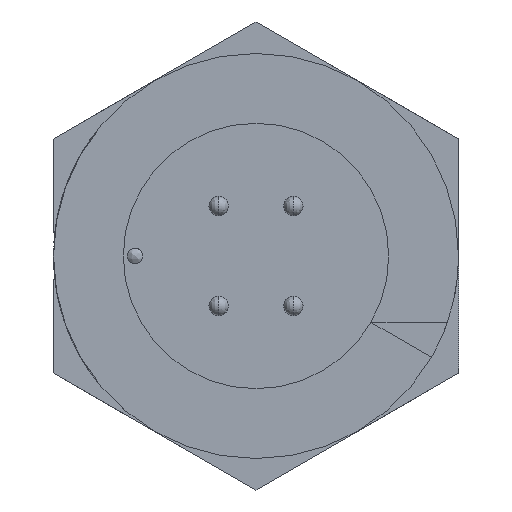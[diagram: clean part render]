
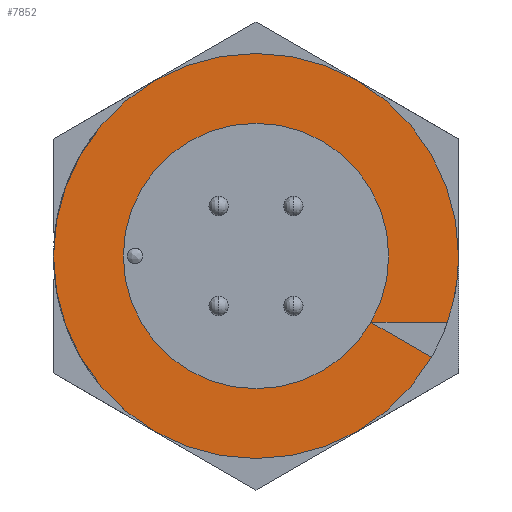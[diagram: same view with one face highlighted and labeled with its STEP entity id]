
A CAD part, left-side view. The second image highlights one B-rep face of the part: STEP entity #7852.
In plain terms, the highlighted planar face has unit normal (-1, 0, 0).
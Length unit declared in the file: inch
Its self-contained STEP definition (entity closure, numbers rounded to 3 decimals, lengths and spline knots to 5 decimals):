
#594 = ORIENTED_EDGE ( 'NONE', *, *, #14451, .F. ) ;
#628 = CARTESIAN_POINT ( 'NONE',  ( -0.078, 0., 0. ) ) ;
#1115 = CIRCLE ( 'NONE', #11576, 0.406 ) ;
#1986 = VERTEX_POINT ( 'NONE', #28195 ) ;
#2983 = DIRECTION ( 'NONE',  ( 0., 1., 0. ) ) ;
#3773 = VERTEX_POINT ( 'NONE', #26251 ) ;
#3820 = ORIENTED_EDGE ( 'NONE', *, *, #17448, .F. ) ;
#3861 = CARTESIAN_POINT ( 'NONE',  ( -0.078, -0.35161, -0.203 ) ) ;
#4427 = VERTEX_POINT ( 'NONE', #21427 ) ;
#4484 = FACE_OUTER_BOUND ( 'NONE', #6595, .T. ) ;
#4800 = ORIENTED_EDGE ( 'NONE', *, *, #19978, .F. ) ;
#5585 = VERTEX_POINT ( 'NONE', #16894 ) ;
#5749 = DIRECTION ( 'NONE',  ( -1., 0., 0. ) ) ;
#6595 = EDGE_LOOP ( 'NONE', ( #25514, #3820, #26063, #16570, #23657, #4800, #594, #23752 ) ) ;
#7569 = CARTESIAN_POINT ( 'NONE',  ( -0.078, 0., 0. ) ) ;
#7731 = CIRCLE ( 'NONE', #26424, 0.266 ) ;
#7852 = ADVANCED_FACE ( 'NONE', ( #4484 ), #24603, .T. ) ;
#8115 = B_SPLINE_CURVE_WITH_KNOTS ( 'NONE', 1,
 ( #19726, #19649 ),
 .UNSPECIFIED., .F., .F.,
 ( 2, 2 ),
 ( 0., 1. ),
 .UNSPECIFIED. ) ;
#8717 = CARTESIAN_POINT ( 'NONE',  ( -0.078, 0., 0. ) ) ;
#9547 = VERTEX_POINT ( 'NONE', #13979 ) ;
#9734 = CIRCLE ( 'NONE', #20484, 0.266 ) ;
#10008 = DIRECTION ( 'NONE',  ( 0., 0., 1. ) ) ;
#10315 = VERTEX_POINT ( 'NONE', #24220 ) ;
#10326 = DIRECTION ( 'NONE',  ( 0., 0., 1. ) ) ;
#10362 = DIRECTION ( 'NONE',  ( -1., 0., 0. ) ) ;
#10428 = CARTESIAN_POINT ( 'NONE',  ( -0.078, 0., 0. ) ) ;
#11121 = DIRECTION ( 'NONE',  ( 0., 1., 0. ) ) ;
#11558 = EDGE_CURVE ( 'NONE', #9547, #5585, #8115, .T. ) ;
#11576 = AXIS2_PLACEMENT_3D ( 'NONE', #27731, #13516, #30044 ) ;
#11997 = EDGE_CURVE ( 'NONE', #5585, #4427, #7731, .T. ) ;
#13516 = DIRECTION ( 'NONE',  ( 1., 0., 0. ) ) ;
#13979 = CARTESIAN_POINT ( 'NONE',  ( -0.078, -0.3836, -0.133 ) ) ;
#14396 = EDGE_CURVE ( 'NONE', #4427, #3773, #19989, .T. ) ;
#14451 = EDGE_CURVE ( 'NONE', #15178, #1986, #25555, .T. ) ;
#15178 = VERTEX_POINT ( 'NONE', #16102 ) ;
#16102 = CARTESIAN_POINT ( 'NONE',  ( -0.078, 0.406, 0. ) ) ;
#16570 = ORIENTED_EDGE ( 'NONE', *, *, #11997, .F. ) ;
#16894 = CARTESIAN_POINT ( 'NONE',  ( -0.078, -0.23036, -0.133 ) ) ;
#16901 = EDGE_CURVE ( 'NONE', #10315, #15178, #27281, .T. ) ;
#17335 = DIRECTION ( 'NONE',  ( 1., 0., 0. ) ) ;
#17448 = EDGE_CURVE ( 'NONE', #3773, #5585, #9734, .T. ) ;
#18229 = CARTESIAN_POINT ( 'NONE',  ( -0.078, -0.23036, -0.133 ) ) ;
#19054 = B_SPLINE_CURVE_WITH_KNOTS ( 'NONE', 1,
 ( #3861, #18229 ),
 .UNSPECIFIED., .F., .F.,
 ( 2, 2 ),
 ( 0., 1. ),
 .UNSPECIFIED. ) ;
#19649 = CARTESIAN_POINT ( 'NONE',  ( -0.078, -0.23036, -0.133 ) ) ;
#19726 = CARTESIAN_POINT ( 'NONE',  ( -0.078, -0.3836, -0.133 ) ) ;
#19978 = EDGE_CURVE ( 'NONE', #1986, #9547, #1115, .T. ) ;
#19989 = CIRCLE ( 'NONE', #27026, 0.266 ) ;
#20154 = CARTESIAN_POINT ( 'NONE',  ( -0.078, 0., 0. ) ) ;
#20484 = AXIS2_PLACEMENT_3D ( 'NONE', #20154, #5749, #22593 ) ;
#21164 = EDGE_CURVE ( 'NONE', #10315, #5585, #19054, .T. ) ;
#21427 = CARTESIAN_POINT ( 'NONE',  ( -0.078, 0., 0.266 ) ) ;
#22593 = DIRECTION ( 'NONE',  ( 0., 0., 1. ) ) ;
#23027 = AXIS2_PLACEMENT_3D ( 'NONE', #8717, #25482, #11121 ) ;
#23657 = ORIENTED_EDGE ( 'NONE', *, *, #11558, .F. ) ;
#23752 = ORIENTED_EDGE ( 'NONE', *, *, #16901, .F. ) ;
#24208 = DIRECTION ( 'NONE',  ( 0., 0., 1. ) ) ;
#24220 = CARTESIAN_POINT ( 'NONE',  ( -0.078, -0.35161, -0.203 ) ) ;
#24247 = DIRECTION ( 'NONE',  ( -1., 0., 0. ) ) ;
#24415 = DIRECTION ( 'NONE',  ( -1., 0., 0. ) ) ;
#24603 = PLANE ( 'NONE',  #24660 ) ;
#24660 = AXIS2_PLACEMENT_3D ( 'NONE', #24668, #24247, #24208 ) ;
#24668 = CARTESIAN_POINT ( 'NONE',  ( -0.078, 0., 0. ) ) ;
#25482 = DIRECTION ( 'NONE',  ( 1., 0., 0. ) ) ;
#25514 = ORIENTED_EDGE ( 'NONE', *, *, #21164, .T. ) ;
#25555 = CIRCLE ( 'NONE', #26937, 0.406 ) ;
#26063 = ORIENTED_EDGE ( 'NONE', *, *, #14396, .F. ) ;
#26251 = CARTESIAN_POINT ( 'NONE',  ( -0.078, 0., -0.266 ) ) ;
#26424 = AXIS2_PLACEMENT_3D ( 'NONE', #10428, #10362, #10326 ) ;
#26937 = AXIS2_PLACEMENT_3D ( 'NONE', #628, #17335, #2983 ) ;
#27026 = AXIS2_PLACEMENT_3D ( 'NONE', #7569, #24415, #10008 ) ;
#27281 = CIRCLE ( 'NONE', #23027, 0.406 ) ;
#27731 = CARTESIAN_POINT ( 'NONE',  ( -0.078, 0., 0. ) ) ;
#28195 = CARTESIAN_POINT ( 'NONE',  ( -0.078, -0.406, 0. ) ) ;
#30044 = DIRECTION ( 'NONE',  ( 0., 1., 0. ) ) ;
